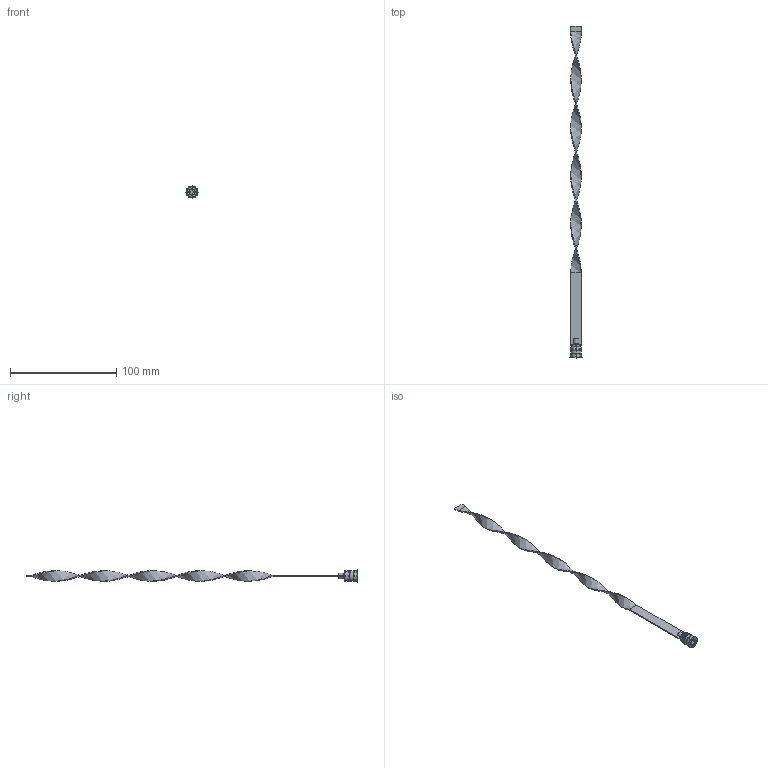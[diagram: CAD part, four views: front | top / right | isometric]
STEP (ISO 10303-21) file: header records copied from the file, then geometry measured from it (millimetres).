
FILE_DESCRIPTION (( 'STEP AP203' ), '1' );
FILE_NAME ('RLS-10Fx300.STEP', '2015-12-04T14:38:20', ( 'Balzi' ), ( '' ), 'SwSTEP 2.0', 'SolidWorks 2015', '' );
FILE_SCHEMA (( 'CONFIG_CONTROL_DESIGN' ));
Length unit declared in the file: millimetre
Products named in the file (1): RLS-10Fx300
Bounding box: 11.3 x 312.5 x 11.3 mm (x, y, z)
Volume: 3863.5 mm3; surface area: 7458.8 mm2
Topology: 1 solids, 1 shells, 80 faces, 187 edges, 113 vertices
Faces by surface type: plane 34, cylinder 17, cone 17, torus 8, bspline 4
Entity records: 4257 total; most frequent: CARTESIAN_POINT 2367, DIRECTION 386, ORIENTED_EDGE 374, EDGE_CURVE 187, AXIS2_PLACEMENT_3D 144, VERTEX_POINT 113, VECTOR 98, LINE 98
